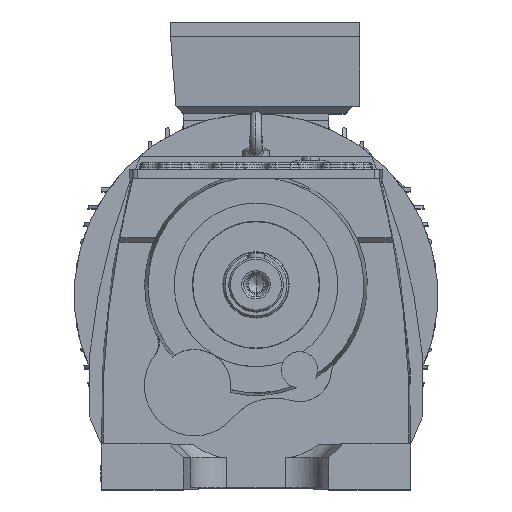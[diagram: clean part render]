
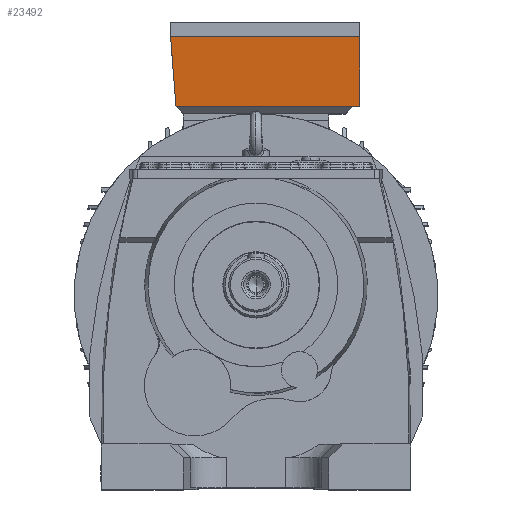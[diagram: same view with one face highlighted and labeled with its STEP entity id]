
A CAD part, top view. The second image highlights one B-rep face of the part: STEP entity #23492.
In plain terms, the highlighted planar face has unit normal (0, -0.078, 0.997).
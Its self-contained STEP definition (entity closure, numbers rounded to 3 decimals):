
#8722 = EDGE_LOOP ( 'NONE', ( #21191, #21212, #21103, #21185, #21091 ) ) ;
#21091 = ORIENTED_EDGE ( 'NONE', *, *, #33267, .F. ) ;
#21103 = ORIENTED_EDGE ( 'NONE', *, *, #33284, .T. ) ;
#21185 = ORIENTED_EDGE ( 'NONE', *, *, #33243, .T. ) ;
#21191 = ORIENTED_EDGE ( 'NONE', *, *, #33278, .T. ) ;
#21212 = ORIENTED_EDGE ( 'NONE', *, *, #33271, .T. ) ;
#23492 = ADVANCED_FACE ( 'NONE', ( #48467 ), #30646, .F. ) ;
#27743 = CARTESIAN_POINT ( 'NONE',  ( -88., 208., 168.5 ) ) ;
#27786 = CARTESIAN_POINT ( 'NONE',  ( -94., 285., 174.5 ) ) ;
#27808 = CARTESIAN_POINT ( 'NONE',  ( 114., 208., 168.5 ) ) ;
#27823 = CARTESIAN_POINT ( 'NONE',  ( 106., 208., 168.5 ) ) ;
#27881 = CARTESIAN_POINT ( 'NONE',  ( 114., 285., 174.5 ) ) ;
#30646 = PLANE ( 'NONE',  #41802 ) ;
#30652 = CARTESIAN_POINT ( 'NONE',  ( -150., 285., 174.5 ) ) ;
#30653 = DIRECTION ( 'NONE',  ( 0., 0.078, -0.997 ) ) ;
#30671 = DIRECTION ( 'NONE',  ( 0., 0.997, 0.078 ) ) ;
#33243 = EDGE_CURVE ( 'NONE', #70505, #70550, #44439, .T. ) ;
#33267 = EDGE_CURVE ( 'NONE', #70462, #70550, #44458, .T. ) ;
#33271 = EDGE_CURVE ( 'NONE', #70454, #70502, #44399, .T. ) ;
#33278 = EDGE_CURVE ( 'NONE', #70462, #70454, #44371, .T. ) ;
#33284 = EDGE_CURVE ( 'NONE', #70502, #70505, #44416, .T. ) ;
#41802 = AXIS2_PLACEMENT_3D ( 'NONE', #30652, #30653, #30671 ) ;
#43258 = CARTESIAN_POINT ( 'NONE',  ( 114., 208., 168.5 ) ) ;
#43267 = DIRECTION ( 'NONE',  ( 0., 0.997, 0.078 ) ) ;
#43558 = CARTESIAN_POINT ( 'NONE',  ( -150., 285., 174.5 ) ) ;
#43569 = DIRECTION ( 'NONE',  ( 1., 0., 0. ) ) ;
#43632 = DIRECTION ( 'NONE',  ( 1., 0., 0. ) ) ;
#43642 = CARTESIAN_POINT ( 'NONE',  ( -94., 285., 174.5 ) ) ;
#43649 = CARTESIAN_POINT ( 'NONE',  ( 106., 208., 168.5 ) ) ;
#43661 = DIRECTION ( 'NONE',  ( 1., 0., 0. ) ) ;
#43669 = CARTESIAN_POINT ( 'NONE',  ( -150., 208., 168.5 ) ) ;
#43710 = DIRECTION ( 'NONE',  ( 0.077, -0.994, -0.077 ) ) ;
#44371 = LINE ( 'NONE', #43642, #44419 ) ;
#44399 = LINE ( 'NONE', #43669, #44453 ) ;
#44416 = LINE ( 'NONE', #43649, #44427 ) ;
#44419 = VECTOR ( 'NONE', #43710, 1000. ) ;
#44427 = VECTOR ( 'NONE', #43632, 1000. ) ;
#44429 = VECTOR ( 'NONE', #43569, 1000. ) ;
#44439 = LINE ( 'NONE', #43258, #44449 ) ;
#44449 = VECTOR ( 'NONE', #43267, 1000. ) ;
#44453 = VECTOR ( 'NONE', #43661, 1000. ) ;
#44458 = LINE ( 'NONE', #43558, #44429 ) ;
#48467 = FACE_OUTER_BOUND ( 'NONE', #8722, .T. ) ;
#70454 = VERTEX_POINT ( 'NONE', #27743 ) ;
#70462 = VERTEX_POINT ( 'NONE', #27786 ) ;
#70502 = VERTEX_POINT ( 'NONE', #27823 ) ;
#70505 = VERTEX_POINT ( 'NONE', #27808 ) ;
#70550 = VERTEX_POINT ( 'NONE', #27881 ) ;
